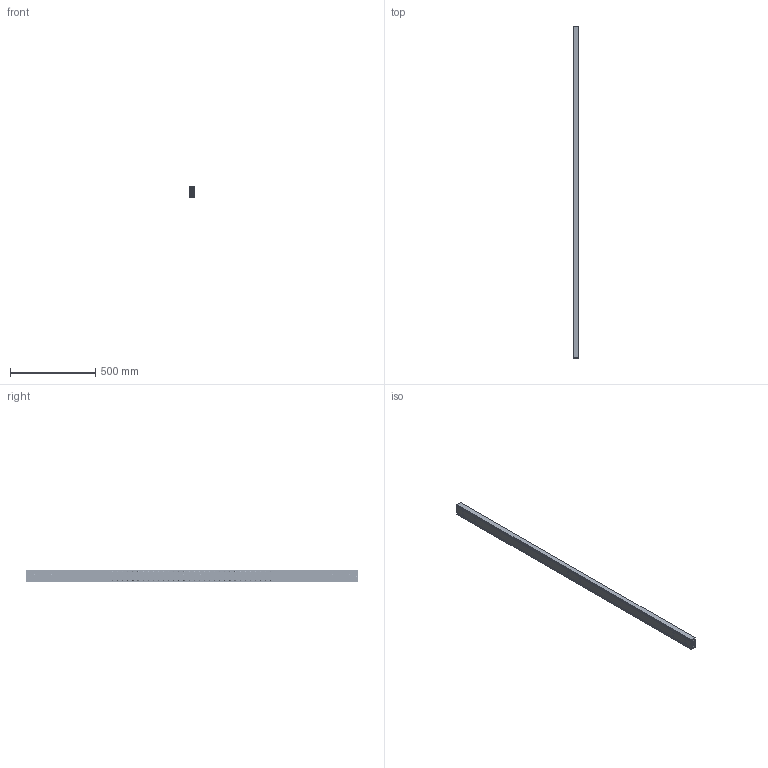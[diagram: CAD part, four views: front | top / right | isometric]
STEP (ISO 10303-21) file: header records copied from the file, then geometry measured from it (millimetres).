
FILE_DESCRIPTION(/* description */ (''),/* implementation_level */ '2;1');
FILE_NAME(/* name */ 'D:\Zeichnungen Schienen Komplett\MX-DTP70\MX-DTP70.195\MX-DTP70.195_eingefahren.step',/* time_stamp */ '2022-08-31T09:07:11+02:00',/* author */ ('zmile'),/* organization */ (''),/* preprocessor_version */ 'ST-DEVELOPER v16.13',/* originating_system */ 'AutoCAD Mechanical',/* authorisation */ '');
FILE_SCHEMA (('AUTOMOTIVE_DESIGN { 1 0 10303 214 3 1 1 }'));
Products named in the file (1): Product
Bounding box: 32 x 1950 x 70 mm (x, y, z)
Volume: 3471164 mm3; surface area: 1231700.1 mm2
Topology: 135 solids, 135 shells, 474 faces, 1360 edges, 904 vertices
Faces by surface type: cylinder 168, sphere 128, plane 86, bspline 86, torus 6
Full cylindrical faces by diameter (mm): 9 x128, 13 x2
Entity records: 197183 total; most frequent: CARTESIAN_POINT 186173, DIRECTION 1942, ORIENTED_EDGE 1932, EDGE_CURVE 966, EDGE_LOOP 922, VERTEX_POINT 902, AXIS2_PLACEMENT_3D 865, FACE_OUTER_BOUND 474
